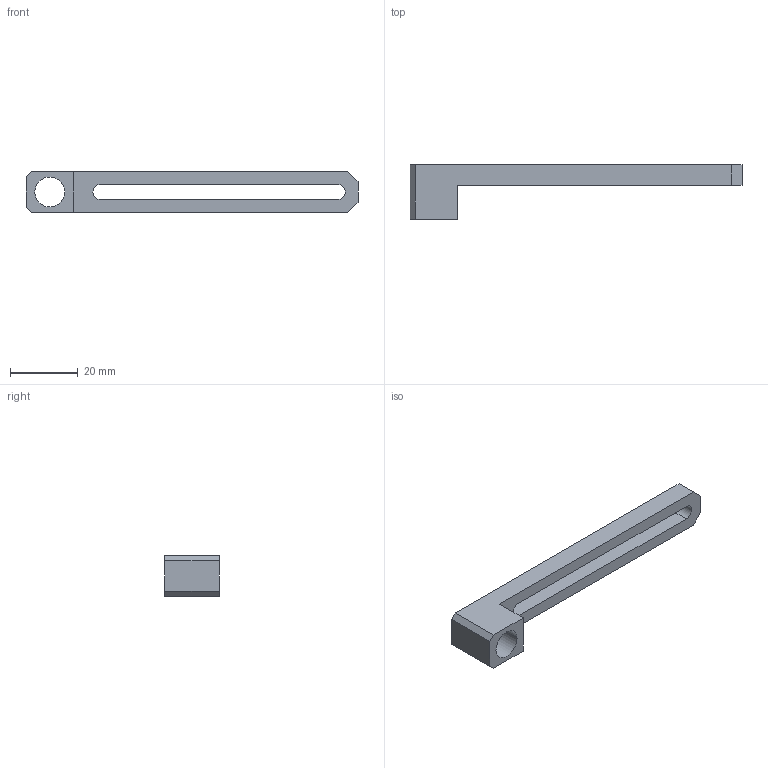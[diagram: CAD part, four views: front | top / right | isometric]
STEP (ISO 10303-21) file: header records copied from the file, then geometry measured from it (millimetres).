
FILE_DESCRIPTION (( 'STEP AP214' ), '1' );
FILE_NAME ('SCF1-70G18.STEP', '2019-11-06T07:42:54', ( '微软用户' ), ( '微软中国' ), 'SwSTEP 2.0', 'SolidWorks 2016', '' );
FILE_SCHEMA (( 'AUTOMOTIVE_DESIGN' ));
Length unit declared in the file: millimetre
Products named in the file (1): SCF1-70G18
Bounding box: 98 x 16 x 12 mm (x, y, z)
Volume: 5687.4 mm3; surface area: 4704 mm2
Topology: 1 solids, 1 shells, 18 faces, 48 edges, 32 vertices
Faces by surface type: plane 14, cylinder 4
Entity records: 602 total; most frequent: CARTESIAN_POINT 99, ORIENTED_EDGE 96, DIRECTION 94, EDGE_CURVE 48, LINE 40, VECTOR 40, VERTEX_POINT 32, AXIS2_PLACEMENT_3D 27
